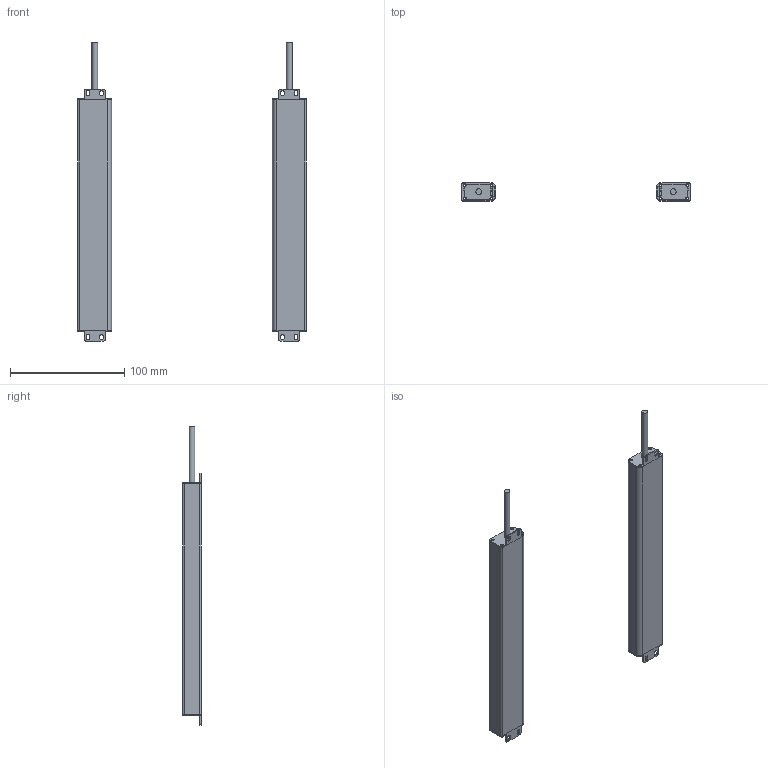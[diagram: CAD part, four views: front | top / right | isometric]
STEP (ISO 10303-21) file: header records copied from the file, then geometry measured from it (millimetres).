
FILE_DESCRIPTION(/* description */ (''),/* implementation_level */ '2;1');
FILE_NAME(/* name */ '2010（16X30w).stp',/* time_stamp */ '2020-06-18T16:38:12+08:00',/* author */ (''),/* organization */ (''),/* preprocessor_version */ 'ST-DEVELOPER v16',/* originating_system */ 'SIEMENS PLM Software NX 10.0',/* authorisation */ '');
FILE_SCHEMA (('AP203_CONFIGURATION_CONTROLLED_3D_DESIGN_OF_MECHANICAL_PARTS_AND_ASSEMBLIES_MIM_LF { 1 0 10303 403 2 1 2}'));
Length unit declared in the file: millimetre
Products named in the file (1): Admi184CCD9Epmmh
Bounding box: 200 x 16 x 261.5 mm (x, y, z)
Volume: 61204.2 mm3; surface area: 91197.1 mm2
Topology: 10 solids, 10 shells, 296 faces, 830 edges, 554 vertices
Faces by surface type: plane 160, cylinder 136
Full cylindrical faces by diameter (mm): 5 x2
Entity records: 9760 total; most frequent: DIRECTION 1692, CARTESIAN_POINT 1675, ORIENTED_EDGE 1652, EDGE_CURVE 826, AXIS2_PLACEMENT_3D 569, LINE 554, VECTOR 554, VERTEX_POINT 552
